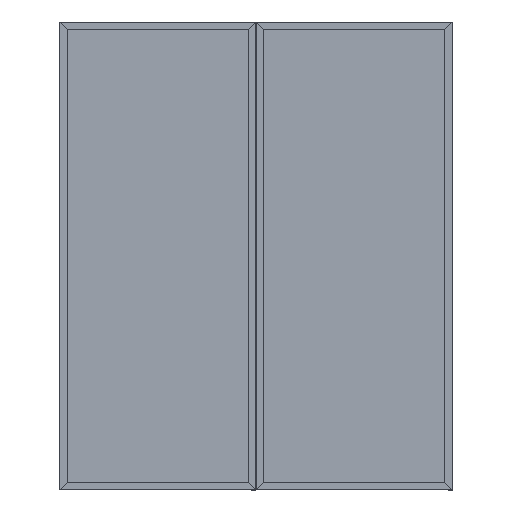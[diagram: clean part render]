
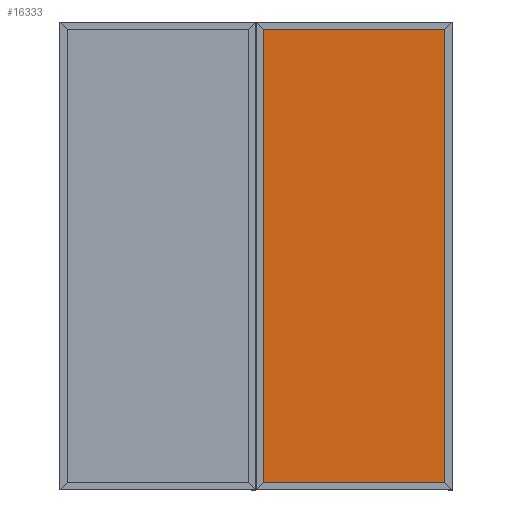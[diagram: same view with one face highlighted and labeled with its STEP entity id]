
A CAD part, top view. The second image highlights one B-rep face of the part: STEP entity #16333.
In plain terms, the highlighted planar face has unit normal (0, 0, 1).
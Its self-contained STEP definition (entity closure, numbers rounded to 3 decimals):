
#1660 = VECTOR ( 'NONE', #16558, 1000. ) ;
#1772 = DIRECTION ( 'NONE',  ( 0., 0., -1. ) ) ;
#1886 = LINE ( 'NONE', #22383, #18469 ) ;
#2274 = CARTESIAN_POINT ( 'NONE',  ( 465.07, 1162.2, -13.25 ) ) ;
#3869 = CARTESIAN_POINT ( 'NONE',  ( 0., 0., -13.25 ) ) ;
#6552 = PLANE ( 'NONE',  #11291 ) ;
#9763 = CARTESIAN_POINT ( 'NONE',  ( -465.07, 1162.2, -13.25 ) ) ;
#10504 = DIRECTION ( 'NONE',  ( 0., 1., 0. ) ) ;
#11291 = AXIS2_PLACEMENT_3D ( 'NONE', #3869, #1772, #15676 ) ;
#11698 = LINE ( 'NONE', #20822, #22970 ) ;
#12737 = LINE ( 'NONE', #24553, #14062 ) ;
#13626 = EDGE_LOOP ( 'NONE', ( #26519, #28225, #20134, #26972 ) ) ;
#14062 = VECTOR ( 'NONE', #10504, 1000. ) ;
#15568 = VERTEX_POINT ( 'NONE', #9763 ) ;
#15676 = DIRECTION ( 'NONE',  ( -1., 0., 0. ) ) ;
#15984 = VERTEX_POINT ( 'NONE', #23339 ) ;
#16333 = ADVANCED_FACE ( 'NONE', ( #27179 ), #6552, .F. ) ;
#16558 = DIRECTION ( 'NONE',  ( 0., 1., 0. ) ) ;
#16728 = EDGE_CURVE ( 'NONE', #27507, #15984, #1886, .T. ) ;
#18469 = VECTOR ( 'NONE', #21933, 1000. ) ;
#18795 = LINE ( 'NONE', #27902, #1660 ) ;
#19293 = CARTESIAN_POINT ( 'NONE',  ( 465.07, -1162.2, -13.25 ) ) ;
#19343 = EDGE_CURVE ( 'NONE', #27507, #23290, #18795, .T. ) ;
#20134 = ORIENTED_EDGE ( 'NONE', *, *, #19343, .T. ) ;
#20822 = CARTESIAN_POINT ( 'NONE',  ( 0., 1162.2, -13.25 ) ) ;
#21933 = DIRECTION ( 'NONE',  ( -1., 0., 0. ) ) ;
#22383 = CARTESIAN_POINT ( 'NONE',  ( 0., -1162.2, -13.25 ) ) ;
#22970 = VECTOR ( 'NONE', #23810, 1000. ) ;
#23290 = VERTEX_POINT ( 'NONE', #2274 ) ;
#23339 = CARTESIAN_POINT ( 'NONE',  ( -465.07, -1162.2, -13.25 ) ) ;
#23810 = DIRECTION ( 'NONE',  ( -1., 0., 0. ) ) ;
#24553 = CARTESIAN_POINT ( 'NONE',  ( -465.07, 0., -13.25 ) ) ;
#24708 = EDGE_CURVE ( 'NONE', #23290, #15568, #11698, .T. ) ;
#26519 = ORIENTED_EDGE ( 'NONE', *, *, #28327, .F. ) ;
#26972 = ORIENTED_EDGE ( 'NONE', *, *, #24708, .T. ) ;
#27179 = FACE_OUTER_BOUND ( 'NONE', #13626, .T. ) ;
#27507 = VERTEX_POINT ( 'NONE', #19293 ) ;
#27902 = CARTESIAN_POINT ( 'NONE',  ( 465.07, 0., -13.25 ) ) ;
#28225 = ORIENTED_EDGE ( 'NONE', *, *, #16728, .F. ) ;
#28327 = EDGE_CURVE ( 'NONE', #15984, #15568, #12737, .T. ) ;
